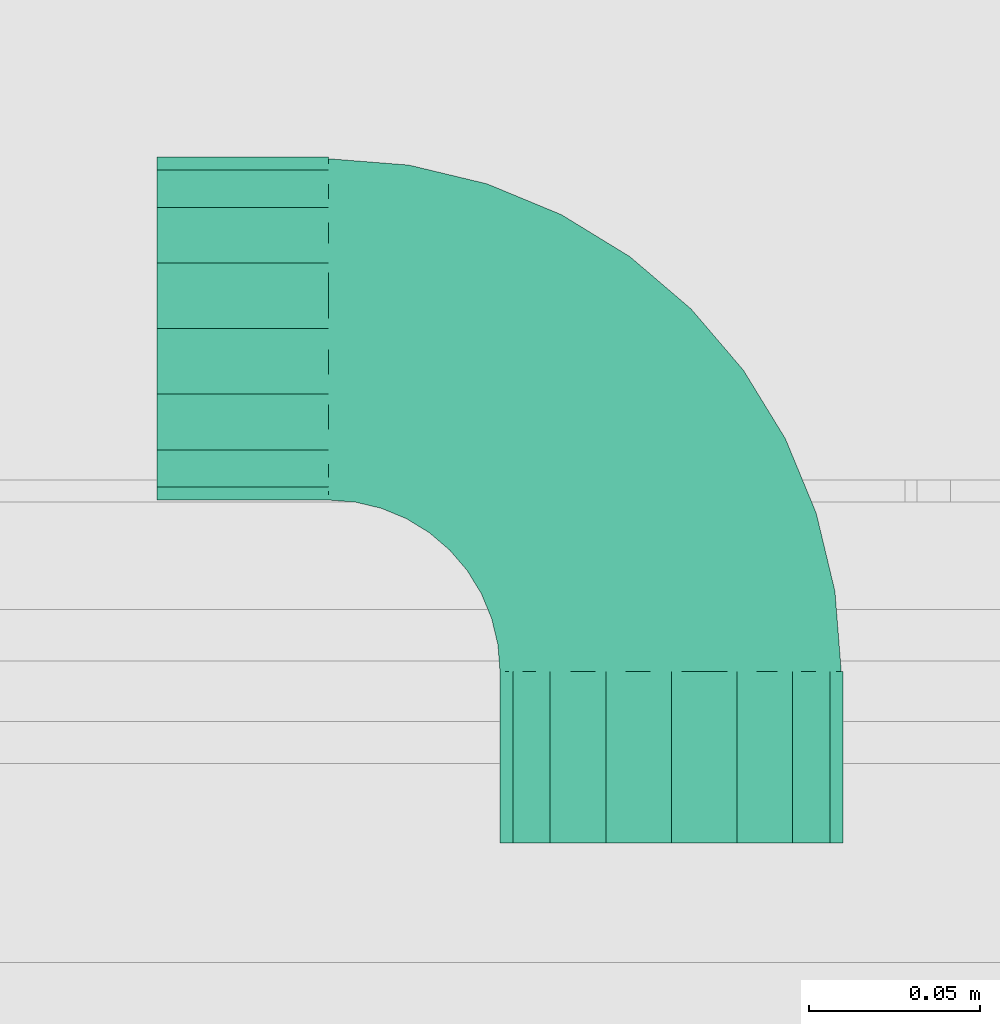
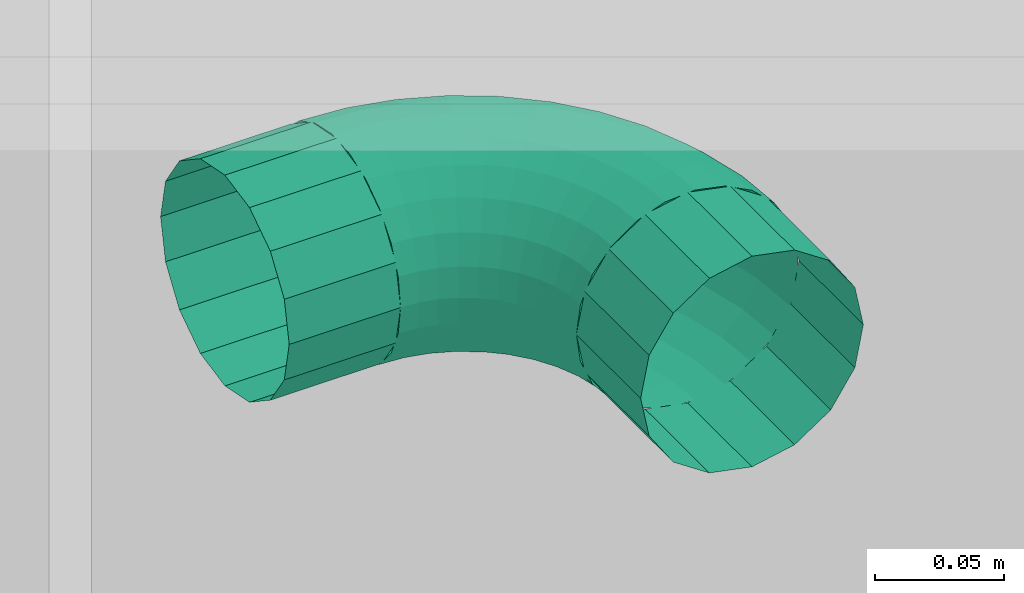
# One storey, part 171 of 183: 1 flow fitting.
"""IFC2X3 building model written with IfcOpenShell, lengths in metres."""

from ifc_helpers import new_model, entity, si_unit, converted_unit, derived_unit, money_unit, direction, frame, origin_with_axes, place, context, subcontext, project, spatial, open_shell, surface_model, material, type_object, element, save


model = new_model("IFC2X3")

# Units and contexts
model_context = context("Model", 3, precision=1e-05, world=origin_with_axes(), true_north=direction((0.0, 1.0)))
body_context = subcontext(model_context, "Body", "Model", "MODEL_VIEW", scale=1.0)
ifc_project = project(units=[si_unit("LENGTHUNIT", "METRE"), si_unit("AREAUNIT", "SQUARE_METRE"), si_unit("VOLUMEUNIT", "CUBIC_METRE"), si_unit("ABSORBEDDOSEUNIT", "GRAY"), si_unit("AMOUNTOFSUBSTANCEUNIT", "MOLE"), si_unit("DOSEEQUIVALENTUNIT", "SIEVERT"), si_unit("ELECTRICCAPACITANCEUNIT", "FARAD"), si_unit("ELECTRICCHARGEUNIT", "COULOMB"), si_unit("ELECTRICCONDUCTANCEUNIT", "SIEMENS"), si_unit("ELECTRICCURRENTUNIT", "AMPERE"), si_unit("ELECTRICRESISTANCEUNIT", "OHM"), si_unit("ELECTRICVOLTAGEUNIT", "VOLT"), si_unit("ENERGYUNIT", "JOULE"), si_unit("FORCEUNIT", "NEWTON"), si_unit("FREQUENCYUNIT", "HERTZ"), si_unit("ILLUMINANCEUNIT", "LUX"), si_unit("INDUCTANCEUNIT", "HENRY"), si_unit("LUMINOUSFLUXUNIT", "LUMEN"), si_unit("LUMINOUSINTENSITYUNIT", "CANDELA"), si_unit("MAGNETICFLUXDENSITYUNIT", "TESLA"), si_unit("MAGNETICFLUXUNIT", "WEBER"), si_unit("MASSUNIT", "GRAM"), converted_unit("PLANEANGLEUNIT", "degree", entity("IfcReal", 0.0174532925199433), si_unit("PLANEANGLEUNIT", "RADIAN"), dimensions=[0, 0, 0, 0, 0, 0, 0]), si_unit("POWERUNIT", "WATT"), si_unit("PRESSUREUNIT", "PASCAL"), si_unit("RADIOACTIVITYUNIT", "BECQUEREL"), si_unit("SOLIDANGLEUNIT", "STERADIAN"), si_unit("THERMODYNAMICTEMPERATUREUNIT", "KELVIN"), si_unit("TIMEUNIT", "SECOND"), derived_unit("ACCELERATIONUNIT", [(si_unit("LENGTHUNIT", "METRE"), 1), (si_unit("TIMEUNIT", "SECOND"), -2)]), derived_unit("ANGULARVELOCITYUNIT", [(converted_unit("PLANEANGLEUNIT", "degree", entity("IfcReal", 0.0174532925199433), si_unit("PLANEANGLEUNIT", "RADIAN"), dimensions=[0, 0, 0, 0, 0, 0, 0]), 1), (si_unit("TIMEUNIT", "SECOND"), -1)]), derived_unit("CURVATUREUNIT", [(converted_unit("PLANEANGLEUNIT", "degree", entity("IfcReal", 0.0174532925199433), si_unit("PLANEANGLEUNIT", "RADIAN"), dimensions=[0, 0, 0, 0, 0, 0, 0]), 1), (si_unit("LENGTHUNIT", "METRE"), -1)]), derived_unit("DYNAMICVISCOSITYUNIT", [(si_unit("PRESSUREUNIT", "PASCAL"), 1), (si_unit("TIMEUNIT", "SECOND"), 1)]), derived_unit("HEATFLUXDENSITYUNIT", [(si_unit("POWERUNIT", "WATT"), 1), (si_unit("LENGTHUNIT", "METRE"), -2)]), derived_unit("HEATINGVALUEUNIT", [(si_unit("ENERGYUNIT", "JOULE"), 1), (si_unit("MASSUNIT", "GRAM"), -1)]), derived_unit("INTEGERCOUNTRATEUNIT", [(si_unit("TIMEUNIT", "SECOND"), -1)]), derived_unit("IONCONCENTRATIONUNIT", [(si_unit("MASSUNIT", "GRAM"), 1), (si_unit("VOLUMEUNIT", "CUBIC_METRE"), -1)]), derived_unit("ISOTHERMALMOISTURECAPACITYUNIT", [(si_unit("VOLUMEUNIT", "CUBIC_METRE"), 1), (si_unit("MASSUNIT", "GRAM"), -1)]), derived_unit("KINEMATICVISCOSITYUNIT", [(si_unit("AREAUNIT", "SQUARE_METRE"), 1), (si_unit("TIMEUNIT", "SECOND"), -1)]), derived_unit("LINEARFORCEUNIT", [(si_unit("FORCEUNIT", "NEWTON"), 1), (si_unit("LENGTHUNIT", "METRE"), -1)]), derived_unit("LINEARMOMENTUNIT", [(si_unit("FORCEUNIT", "NEWTON"), 1), (si_unit("LENGTHUNIT", "METRE"), -1)]), derived_unit("LINEARSTIFFNESSUNIT", [(si_unit("FORCEUNIT", "NEWTON"), 1), (si_unit("LENGTHUNIT", "METRE"), -1)]), derived_unit("LINEARVELOCITYUNIT", [(si_unit("LENGTHUNIT", "METRE"), 1), (si_unit("TIMEUNIT", "SECOND"), -1)]), derived_unit("LUMINOUSINTENSITYDISTRIBUTIONUNIT", [(si_unit("LUMINOUSINTENSITYUNIT", "CANDELA"), 1), (si_unit("LUMINOUSFLUXUNIT", "LUMEN"), -1)]), derived_unit("MASSDENSITYUNIT", [(si_unit("MASSUNIT", "GRAM"), 1), (si_unit("VOLUMEUNIT", "CUBIC_METRE"), -1)]), derived_unit("MASSFLOWRATEUNIT", [(si_unit("MASSUNIT", "GRAM"), 1), (si_unit("TIMEUNIT", "SECOND"), -1)]), derived_unit("MASSPERLENGTHUNIT", [(si_unit("MASSUNIT", "GRAM"), 1), (si_unit("LENGTHUNIT", "METRE"), -1)]), derived_unit("MODULUSOFELASTICITYUNIT", [(si_unit("FORCEUNIT", "NEWTON"), 1), (si_unit("AREAUNIT", "SQUARE_METRE"), -1)]), derived_unit("MODULUSOFLINEARSUBGRADEREACTIONUNIT", [(si_unit("FORCEUNIT", "NEWTON"), 1), (si_unit("LENGTHUNIT", "METRE"), -2)]), derived_unit("MODULUSOFROTATIONALSUBGRADEREACTIONUNIT", [(si_unit("FORCEUNIT", "NEWTON"), 1), (si_unit("LENGTHUNIT", "METRE"), 1)]), derived_unit("MODULUSOFSUBGRADEREACTIONUNIT", [(si_unit("FORCEUNIT", "NEWTON"), 1), (si_unit("VOLUMEUNIT", "CUBIC_METRE"), -1)]), derived_unit("MOISTUREDIFFUSIVITYUNIT", [(si_unit("VOLUMEUNIT", "CUBIC_METRE"), 1), (si_unit("TIMEUNIT", "SECOND"), -1)]), derived_unit("MOLECULARWEIGHTUNIT", [(si_unit("MASSUNIT", "GRAM"), 1), (si_unit("AMOUNTOFSUBSTANCEUNIT", "MOLE"), -1)]), derived_unit("PLANARFORCEUNIT", [(si_unit("FORCEUNIT", "NEWTON"), 1), (si_unit("LENGTHUNIT", "METRE"), -2)]), derived_unit("ROTATIONALFREQUENCYUNIT", [(si_unit("TIMEUNIT", "SECOND"), -1)]), derived_unit("ROTATIONALMASSUNIT", [(si_unit("MASSUNIT", "GRAM"), 1), (si_unit("LENGTHUNIT", "METRE"), 2)]), derived_unit("ROTATIONALSTIFFNESSUNIT", [(si_unit("FORCEUNIT", "NEWTON"), 1), (si_unit("LENGTHUNIT", "METRE"), 1), (converted_unit("PLANEANGLEUNIT", "degree", entity("IfcReal", 0.0174532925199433), si_unit("PLANEANGLEUNIT", "RADIAN"), dimensions=[0, 0, 0, 0, 0, 0, 0]), -1)]), derived_unit("SECTIONAREAINTEGRALUNIT", [(si_unit("LENGTHUNIT", "METRE"), 5)]), derived_unit("SECTIONMODULUSUNIT", [(si_unit("LENGTHUNIT", "METRE"), 3)]), derived_unit("SHEARMODULUSUNIT", [(si_unit("FORCEUNIT", "NEWTON"), 1), (si_unit("AREAUNIT", "SQUARE_METRE"), -1)]), derived_unit("SOUNDPOWERUNIT", [(si_unit("ENERGYUNIT", "JOULE"), 1), (si_unit("TIMEUNIT", "SECOND"), -1)]), derived_unit("SPECIFICHEATCAPACITYUNIT", [(si_unit("FORCEUNIT", "NEWTON"), 1), (si_unit("MASSUNIT", "GRAM"), -1), (si_unit("THERMODYNAMICTEMPERATUREUNIT", "KELVIN"), -1)]), derived_unit("TEMPERATUREGRADIENTUNIT", [(si_unit("THERMODYNAMICTEMPERATUREUNIT", "KELVIN"), 1), (si_unit("LENGTHUNIT", "METRE"), -1)]), derived_unit("THERMALADMITTANCEUNIT", [(si_unit("POWERUNIT", "WATT"), 1), (si_unit("AREAUNIT", "SQUARE_METRE"), -1), (si_unit("THERMODYNAMICTEMPERATUREUNIT", "KELVIN"), -1)]), derived_unit("THERMALCONDUCTANCEUNIT", [(si_unit("POWERUNIT", "WATT"), 1), (si_unit("LENGTHUNIT", "METRE"), -1), (si_unit("THERMODYNAMICTEMPERATUREUNIT", "KELVIN"), -1)]), derived_unit("THERMALEXPANSIONCOEFFICIENTUNIT", [(si_unit("THERMODYNAMICTEMPERATUREUNIT", "KELVIN"), -1)]), derived_unit("THERMALRESISTANCEUNIT", [(si_unit("AREAUNIT", "SQUARE_METRE"), 1), (si_unit("POWERUNIT", "WATT"), -1)]), derived_unit("THERMALTRANSMITTANCEUNIT", [(si_unit("POWERUNIT", "WATT"), 1), (si_unit("AREAUNIT", "SQUARE_METRE"), -1), (si_unit("THERMODYNAMICTEMPERATUREUNIT", "KELVIN"), -1)]), derived_unit("TORQUEUNIT", [(si_unit("FORCEUNIT", "NEWTON"), 1), (si_unit("LENGTHUNIT", "METRE"), 1)]), derived_unit("VAPORPERMEABILITYUNIT", [(si_unit("MASSUNIT", "GRAM"), 1), (si_unit("TIMEUNIT", "SECOND"), -1)]), derived_unit("VOLUMETRICFLOWRATEUNIT", [(si_unit("VOLUMEUNIT", "CUBIC_METRE"), 1), (si_unit("TIMEUNIT", "SECOND"), -1)]), derived_unit("WARPINGCONSTANTUNIT", [(si_unit("LENGTHUNIT", "METRE"), 6)]), derived_unit("WARPINGMOMENTUNIT", [(si_unit("FORCEUNIT", "NEWTON"), 1), (si_unit("LENGTHUNIT", "METRE"), 2)]), money_unit("GBP")], contexts=[model_context])

# Site, building, storey, space
site_placement = place(None, origin_with_axes())
site = spatial("IfcSite", under=ifc_project, at=site_placement, Name="Site", CompositionType="ELEMENT")
building_placement = place(site_placement, origin_with_axes())
building = spatial("IfcBuilding", under=site, at=building_placement, Name="Building01", CompositionType="ELEMENT")
storey_placement = place(building_placement, frame((0.0, 0.0, 5.15), z_axis=(0.0, 0.0, 1.0), x_axis=(1.0, 0.0, 0.0)))
storey = spatial("IfcBuildingStorey", under=building, at=storey_placement, Name="1F", CompositionType="ELEMENT", Elevation=5.15)
space_placement = place(storey_placement, frame((1.009939, 13.890379, 9.81), z_axis=(0.0, 0.0, 1.0), x_axis=(0.0, -1.0, 0.0)))
space = spatial("IfcSpace", under=storey, at=space_placement, Name="26", CompositionType="ELEMENT", InteriorOrExteriorSpace="NOTDEFINED")

# Flow fitting
ifc_material = material(Name="M_BSUK_Ventilation")
duct_fitting_type = type_object("IfcDuctFittingType", Name="M-Roundelbow-DefaultRound", PredefinedType="BEND")
placement = place(building_placement, origin_with_axes())
flow_fitting_placement = place(placement, frame((3.07, 8.432559, 17.28), z_axis=(1.0, 0.0, 0.0), x_axis=(0.0, 1.0, 0.0)))
element("IfcFlowFitting", 1, at=flow_fitting_placement, inside=space, type_object=duct_fitting_type, material=ifc_material, Name="M-Roundelbow-DefaultRound", ObjectType="M-Roundelbow-DefaultRound", context=body_context, shape_type="SurfaceModel", body=[
    surface_model("IfcShellBasedSurfaceModel", [(0.008112, -0.01349, -0.048784), (0.0, -0.01349, -0.048146), (0.0, 0.0, -0.05), (0.007822, 0.0, -0.050616), (0.016024, -0.01349, -0.050684), (0.015451, 0.0, -0.052447), (0.023541, -0.01349, -0.053798), (0.0227, 0.0, -0.05545), (0.030479, -0.01349, -0.058049), (0.029389, 0.0, -0.059549), (0.036666, -0.01349, -0.063334), (0.035355, 0.0, -0.064645), (0.041951, -0.01349, -0.069521), (0.040451, 0.0, -0.070611), (0.046202, -0.01349, -0.076459), (0.04455, 0.0, -0.0773), (0.049316, -0.01349, -0.083976), (0.047553, 0.0, -0.084549), (0.051216, -0.01349, -0.091888), (0.049384, 0.0, -0.092178), (0.051854, -0.01349, -0.1), (0.05, 0.0, -0.1), (0.00896, -0.025979, -0.043426), (0.0, -0.025979, -0.042721), (0.0177, -0.025979, -0.045524), (0.026004, -0.025979, -0.048964), (0.033668, -0.025979, -0.05366), (0.040502, -0.025979, -0.059498), (0.04634, -0.025979, -0.066332), (0.051036, -0.025979, -0.073996), (0.054476, -0.025979, -0.0823), (0.056574, -0.025979, -0.09104), (0.057279, -0.025979, -0.1), (0.010305, -0.036542, -0.034939), (0.0, -0.036542, -0.034128), (0.020356, -0.036542, -0.037352), (0.029905, -0.036542, -0.041307), (0.038719, -0.036542, -0.046708), (0.046579, -0.036542, -0.053421), (0.053292, -0.036542, -0.061281), (0.058693, -0.036542, -0.070095), (0.062648, -0.036542, -0.079644), (0.065061, -0.036542, -0.089695), (0.065872, -0.036542, -0.1), (0.012045, -0.044394, -0.023951), (0.0, -0.044394, -0.023003), (0.023793, -0.044394, -0.026772), (0.034956, -0.044394, -0.031395), (0.045258, -0.044394, -0.037708), (0.054445, -0.044394, -0.045555), (0.062292, -0.044394, -0.054742), (0.068605, -0.044394, -0.065044), (0.073228, -0.044394, -0.076207), (0.076049, -0.044394, -0.087955), (0.076997, -0.044394, -0.1), (0.014052, -0.048954, -0.011279), (0.0, -0.048954, -0.010173), (0.027758, -0.048954, -0.014569), (0.040781, -0.048954, -0.019963), (0.052799, -0.048954, -0.027328), (0.063517, -0.048954, -0.036483), (0.072672, -0.048954, -0.047201), (0.080037, -0.048954, -0.059219), (0.085431, -0.048954, -0.072242), (0.088721, -0.048954, -0.085948), (0.089827, -0.048954, -0.1), (0.016177, -0.049883, 0.002139), (0.0, -0.049883, 0.003412), (0.031956, -0.049883, -0.001649), (0.046948, -0.049883, -0.007859), (0.060784, -0.049883, -0.016338), (0.073123, -0.049883, -0.026877), (0.083662, -0.049883, -0.039216), (0.092141, -0.049883, -0.053052), (0.098351, -0.049883, -0.068044), (0.102139, -0.049883, -0.083823), (0.103412, -0.049883, -0.1), (0.018263, -0.047113, 0.015307), (0.0, -0.047113, 0.016744), (0.036076, -0.047113, 0.01103), (0.053001, -0.047113, 0.00402), (0.06862, -0.047113, -0.005552), (0.08255, -0.047113, -0.01745), (0.094448, -0.047113, -0.03138), (0.10402, -0.047113, -0.046999), (0.11103, -0.047113, -0.063924), (0.115307, -0.047113, -0.081737), (0.116744, -0.047113, -0.1), (0.020154, -0.040848, 0.027248), (0.0, -0.040848, 0.028834), (0.039812, -0.040848, 0.022528), (0.058489, -0.040848, 0.014792), (0.075727, -0.040848, 0.004229), (0.091099, -0.040848, -0.008901), (0.104229, -0.040848, -0.024273), (0.114792, -0.040848, -0.041511), (0.122528, -0.040848, -0.060188), (0.127248, -0.040848, -0.079846), (0.128834, -0.040848, -0.1), (0.021711, -0.031554, 0.037077), (0.0, -0.031554, 0.038786), (0.042887, -0.031554, 0.031993), (0.063007, -0.031554, 0.023659), (0.081576, -0.031554, 0.01228), (0.098136, -0.031554, -0.001864), (0.11228, -0.031554, -0.018424), (0.123659, -0.031554, -0.036993), (0.131993, -0.031554, -0.057113), (0.137077, -0.031554, -0.078289), (0.138786, -0.031554, -0.1), (0.022818, -0.01992, 0.044065), (0.0, -0.01992, 0.045861), (0.045073, -0.01992, 0.038722), (0.066219, -0.01992, 0.029963), (0.085735, -0.01992, 0.018004), (0.103139, -0.01992, 0.003139), (0.118004, -0.01992, -0.014265), (0.129963, -0.01992, -0.033781), (0.138722, -0.01992, -0.054927), (0.144065, -0.01992, -0.077182), (0.145861, -0.01992, -0.1), (0.023392, -0.006808, 0.047693), (0.0, -0.006808, 0.049534), (0.046209, -0.006808, 0.042216), (0.067887, -0.006808, 0.033236), (0.087894, -0.006808, 0.020976), (0.105737, -0.006808, 0.005737), (0.120976, -0.006808, -0.012106), (0.133236, -0.006808, -0.032113), (0.142216, -0.006808, -0.053791), (0.147693, -0.006808, -0.076608), (0.149534, -0.006808, -0.1), (0.023392, 0.006808, 0.047693), (0.0, 0.006808, 0.049534), (0.046209, 0.006808, 0.042216), (0.067887, 0.006808, 0.033236), (0.087894, 0.006808, 0.020976), (0.105737, 0.006808, 0.005737), (0.120976, 0.006808, -0.012106), (0.133236, 0.006808, -0.032113), (0.142216, 0.006808, -0.053791), (0.147693, 0.006808, -0.076608), (0.149534, 0.006808, -0.1), (0.022818, 0.01992, 0.044065), (0.0, 0.01992, 0.045861), (0.045073, 0.01992, 0.038722), (0.066219, 0.01992, 0.029963), (0.085735, 0.01992, 0.018004), (0.103139, 0.01992, 0.003139), (0.118004, 0.01992, -0.014265), (0.129963, 0.01992, -0.033781), (0.138722, 0.01992, -0.054927), (0.144065, 0.01992, -0.077182), (0.145861, 0.01992, -0.1), (0.021711, 0.031554, 0.037077), (0.0, 0.031554, 0.038786), (0.042887, 0.031554, 0.031993), (0.063007, 0.031554, 0.023659), (0.081576, 0.031554, 0.01228), (0.098136, 0.031554, -0.001864), (0.11228, 0.031554, -0.018424), (0.123659, 0.031554, -0.036993), (0.131993, 0.031554, -0.057113), (0.137077, 0.031554, -0.078289), (0.138786, 0.031554, -0.1), (0.020154, 0.040848, 0.027248), (0.0, 0.040848, 0.028834), (0.039812, 0.040848, 0.022528), (0.058489, 0.040848, 0.014792), (0.075727, 0.040848, 0.004229), (0.091099, 0.040848, -0.008901), (0.104229, 0.040848, -0.024273), (0.114792, 0.040848, -0.041511), (0.122528, 0.040848, -0.060188), (0.127248, 0.040848, -0.079846), (0.128834, 0.040848, -0.1), (0.018263, 0.047113, 0.015307), (0.0, 0.047113, 0.016744), (0.036076, 0.047113, 0.01103), (0.053001, 0.047113, 0.00402), (0.06862, 0.047113, -0.005552), (0.08255, 0.047113, -0.01745), (0.094448, 0.047113, -0.03138), (0.10402, 0.047113, -0.046999), (0.11103, 0.047113, -0.063924), (0.115307, 0.047113, -0.081737), (0.116744, 0.047113, -0.1), (0.016177, 0.049883, 0.002139), (0.0, 0.049883, 0.003412), (0.031956, 0.049883, -0.001649), (0.046948, 0.049883, -0.007859), (0.060784, 0.049883, -0.016338), (0.073123, 0.049883, -0.026877), (0.083662, 0.049883, -0.039216), (0.092141, 0.049883, -0.053052), (0.098351, 0.049883, -0.068044), (0.102139, 0.049883, -0.083823), (0.103412, 0.049883, -0.1), (0.014052, 0.048954, -0.011279), (0.0, 0.048954, -0.010173), (0.027758, 0.048954, -0.014569), (0.040781, 0.048954, -0.019963), (0.052799, 0.048954, -0.027328), (0.063517, 0.048954, -0.036483), (0.072672, 0.048954, -0.047201), (0.080037, 0.048954, -0.059219), (0.085431, 0.048954, -0.072242), (0.088721, 0.048954, -0.085948), (0.089827, 0.048954, -0.1), (0.012045, 0.044394, -0.023951), (0.0, 0.044394, -0.023003), (0.023793, 0.044394, -0.026772), (0.034956, 0.044394, -0.031395), (0.045258, 0.044394, -0.037708), (0.054445, 0.044394, -0.045555), (0.062292, 0.044394, -0.054742), (0.068605, 0.044394, -0.065044), (0.073228, 0.044394, -0.076207), (0.076049, 0.044394, -0.087955), (0.076997, 0.044394, -0.1), (0.010305, 0.036542, -0.034939), (0.0, 0.036542, -0.034128), (0.020356, 0.036542, -0.037352), (0.029905, 0.036542, -0.041307), (0.038719, 0.036542, -0.046708), (0.046579, 0.036542, -0.053421), (0.053292, 0.036542, -0.061281), (0.058693, 0.036542, -0.070095), (0.062648, 0.036542, -0.079644), (0.065061, 0.036542, -0.089695), (0.065872, 0.036542, -0.1), (0.00896, 0.025979, -0.043426), (0.0, 0.025979, -0.042721), (0.0177, 0.025979, -0.045524), (0.026004, 0.025979, -0.048964), (0.033668, 0.025979, -0.05366), (0.040502, 0.025979, -0.059498), (0.04634, 0.025979, -0.066332), (0.051036, 0.025979, -0.073996), (0.054476, 0.025979, -0.0823), (0.056574, 0.025979, -0.09104), (0.057279, 0.025979, -0.1), (0.008112, 0.01349, -0.048784), (0.0, 0.01349, -0.048146), (0.016024, 0.01349, -0.050684), (0.023541, 0.01349, -0.053798), (0.030479, 0.01349, -0.058049), (0.036666, 0.01349, -0.063334), (0.041951, 0.01349, -0.069521), (0.046202, 0.01349, -0.076459), (0.049316, 0.01349, -0.083976), (0.051216, 0.01349, -0.091888), (0.051854, 0.01349, -0.1), (-0.05, 0.0, -0.05), (0.0, -0.019134, -0.046194), (-0.05, -0.019134, -0.046194), (0.0, -0.035355, -0.035355), (-0.05, -0.035355, -0.035355), (0.0, -0.046194, -0.019134), (-0.05, -0.046194, -0.019134), (0.0, -0.05, 0.0), (-0.05, -0.05, 0.0), (0.0, -0.046194, 0.019134), (-0.05, -0.046194, 0.019134), (0.0, -0.035355, 0.035355), (-0.05, -0.035355, 0.035355), (0.0, -0.019134, 0.046194), (-0.05, -0.019134, 0.046194), (0.0, 0.0, 0.05), (-0.05, 0.0, 0.05), (0.0, 0.019134, 0.046194), (-0.05, 0.019134, 0.046194), (0.0, 0.035355, 0.035355), (-0.05, 0.035355, 0.035355), (0.0, 0.046194, 0.019134), (-0.05, 0.046194, 0.019134), (0.0, 0.05, 0.0), (-0.05, 0.05, 0.0), (0.0, 0.046194, -0.019134), (-0.05, 0.046194, -0.019134), (0.0, 0.035355, -0.035355), (-0.05, 0.035355, -0.035355), (0.0, 0.019134, -0.046194), (-0.05, 0.019134, -0.046194), (0.05, 0.0, -0.15), (0.053806, 0.019134, -0.1), (0.053806, 0.019134, -0.15), (0.064645, 0.035355, -0.1), (0.064645, 0.035355, -0.15), (0.080866, 0.046194, -0.1), (0.080866, 0.046194, -0.15), (0.1, 0.05, -0.1), (0.1, 0.05, -0.15), (0.119134, 0.046194, -0.1), (0.119134, 0.046194, -0.15), (0.135355, 0.035355, -0.1), (0.135355, 0.035355, -0.15), (0.146194, 0.019134, -0.1), (0.146194, 0.019134, -0.15), (0.15, 0.0, -0.1), (0.15, 0.0, -0.15), (0.146194, -0.019134, -0.1), (0.146194, -0.019134, -0.15), (0.135355, -0.035355, -0.1), (0.135355, -0.035355, -0.15), (0.119134, -0.046194, -0.1), (0.119134, -0.046194, -0.15), (0.1, -0.05, -0.1), (0.1, -0.05, -0.15), (0.080866, -0.046194, -0.1), (0.080866, -0.046194, -0.15), (0.064645, -0.035355, -0.1), (0.064645, -0.035355, -0.15), (0.053806, -0.019134, -0.1), (0.053806, -0.019134, -0.15)], [open_shell([[[0, 1, 2, 3]], [[4, 0, 3, 5]], [[6, 4, 5, 7]], [[8, 6, 7, 9]], [[10, 8, 9, 11]], [[12, 10, 11, 13]], [[14, 12, 13, 15]], [[16, 14, 15, 17]], [[18, 16, 17, 19]], [[20, 18, 19, 21]], [[22, 23, 1, 0]], [[24, 22, 0, 4]], [[25, 24, 4, 6]], [[26, 25, 6, 8]], [[27, 26, 8, 10]], [[28, 27, 10, 12]], [[29, 28, 12, 14]], [[30, 29, 14, 16]], [[31, 30, 16, 18]], [[32, 31, 18, 20]], [[33, 34, 23, 22]], [[35, 33, 22, 24]], [[36, 35, 24, 25]], [[37, 36, 25, 26]], [[38, 37, 26, 27]], [[39, 38, 27, 28]], [[40, 39, 28, 29]], [[41, 40, 29, 30]], [[42, 41, 30, 31]], [[43, 42, 31, 32]], [[44, 45, 34, 33]], [[46, 44, 33, 35]], [[47, 46, 35, 36]], [[48, 47, 36, 37]], [[49, 48, 37, 38]], [[50, 49, 38, 39]], [[51, 50, 39, 40]], [[52, 51, 40, 41]], [[53, 52, 41, 42]], [[54, 53, 42, 43]], [[55, 56, 45, 44]], [[57, 55, 44, 46]], [[58, 57, 46, 47]], [[59, 58, 47, 48]], [[60, 59, 48, 49]], [[61, 60, 49, 50]], [[62, 61, 50, 51]], [[63, 62, 51, 52]], [[64, 63, 52, 53]], [[65, 64, 53, 54]], [[66, 67, 56, 55]], [[68, 66, 55, 57]], [[69, 68, 57, 58]], [[70, 69, 58, 59]], [[71, 70, 59, 60]], [[72, 71, 60, 61]], [[73, 72, 61, 62]], [[74, 73, 62, 63]], [[75, 74, 63, 64]], [[76, 75, 64, 65]], [[77, 78, 67, 66]], [[79, 77, 66, 68]], [[80, 79, 68, 69]], [[81, 80, 69, 70]], [[82, 81, 70, 71]], [[83, 82, 71, 72]], [[84, 83, 72, 73]], [[85, 84, 73, 74]], [[86, 85, 74, 75]], [[87, 86, 75, 76]], [[88, 89, 78, 77]], [[90, 88, 77, 79]], [[91, 90, 79, 80]], [[92, 91, 80, 81]], [[93, 92, 81, 82]], [[94, 93, 82, 83]], [[95, 94, 83, 84]], [[96, 95, 84, 85]], [[97, 96, 85, 86]], [[98, 97, 86, 87]], [[99, 100, 89, 88]], [[101, 99, 88, 90]], [[102, 101, 90, 91]], [[103, 102, 91, 92]], [[104, 103, 92, 93]], [[105, 104, 93, 94]], [[106, 105, 94, 95]], [[107, 106, 95, 96]], [[108, 107, 96, 97]], [[109, 108, 97, 98]], [[110, 111, 100, 99]], [[112, 110, 99, 101]], [[113, 112, 101, 102]], [[114, 113, 102, 103]], [[115, 114, 103, 104]], [[116, 115, 104, 105]], [[117, 116, 105, 106]], [[118, 117, 106, 107]], [[119, 118, 107, 108]], [[120, 119, 108, 109]], [[121, 122, 111, 110]], [[123, 121, 110, 112]], [[124, 123, 112, 113]], [[125, 124, 113, 114]], [[126, 125, 114, 115]], [[127, 126, 115, 116]], [[128, 127, 116, 117]], [[129, 128, 117, 118]], [[130, 129, 118, 119]], [[131, 130, 119, 120]], [[132, 133, 122, 121]], [[134, 132, 121, 123]], [[135, 134, 123, 124]], [[136, 135, 124, 125]], [[137, 136, 125, 126]], [[138, 137, 126, 127]], [[139, 138, 127, 128]], [[140, 139, 128, 129]], [[141, 140, 129, 130]], [[142, 141, 130, 131]], [[143, 144, 133, 132]], [[145, 143, 132, 134]], [[146, 145, 134, 135]], [[147, 146, 135, 136]], [[148, 147, 136, 137]], [[149, 148, 137, 138]], [[150, 149, 138, 139]], [[151, 150, 139, 140]], [[152, 151, 140, 141]], [[153, 152, 141, 142]], [[154, 155, 144, 143]], [[156, 154, 143, 145]], [[157, 156, 145, 146]], [[158, 157, 146, 147]], [[159, 158, 147, 148]], [[160, 159, 148, 149]], [[161, 160, 149, 150]], [[162, 161, 150, 151]], [[163, 162, 151, 152]], [[164, 163, 152, 153]], [[165, 166, 155, 154]], [[167, 165, 154, 156]], [[168, 167, 156, 157]], [[169, 168, 157, 158]], [[170, 169, 158, 159]], [[171, 170, 159, 160]], [[172, 171, 160, 161]], [[173, 172, 161, 162]], [[174, 173, 162, 163]], [[175, 174, 163, 164]], [[176, 177, 166, 165]], [[178, 176, 165, 167]], [[179, 178, 167, 168]], [[180, 179, 168, 169]], [[181, 180, 169, 170]], [[182, 181, 170, 171]], [[183, 182, 171, 172]], [[184, 183, 172, 173]], [[185, 184, 173, 174]], [[186, 185, 174, 175]], [[187, 188, 177, 176]], [[189, 187, 176, 178]], [[190, 189, 178, 179]], [[191, 190, 179, 180]], [[192, 191, 180, 181]], [[193, 192, 181, 182]], [[194, 193, 182, 183]], [[195, 194, 183, 184]], [[196, 195, 184, 185]], [[197, 196, 185, 186]], [[198, 199, 188, 187]], [[200, 198, 187, 189]], [[201, 200, 189, 190]], [[202, 201, 190, 191]], [[203, 202, 191, 192]], [[204, 203, 192, 193]], [[205, 204, 193, 194]], [[206, 205, 194, 195]], [[207, 206, 195, 196]], [[208, 207, 196, 197]], [[209, 210, 199, 198]], [[211, 209, 198, 200]], [[212, 211, 200, 201]], [[213, 212, 201, 202]], [[214, 213, 202, 203]], [[215, 214, 203, 204]], [[216, 215, 204, 205]], [[217, 216, 205, 206]], [[218, 217, 206, 207]], [[219, 218, 207, 208]], [[220, 221, 210, 209]], [[222, 220, 209, 211]], [[223, 222, 211, 212]], [[224, 223, 212, 213]], [[225, 224, 213, 214]], [[226, 225, 214, 215]], [[227, 226, 215, 216]], [[228, 227, 216, 217]], [[229, 228, 217, 218]], [[230, 229, 218, 219]], [[231, 232, 221, 220]], [[233, 231, 220, 222]], [[234, 233, 222, 223]], [[235, 234, 223, 224]], [[236, 235, 224, 225]], [[237, 236, 225, 226]], [[238, 237, 226, 227]], [[239, 238, 227, 228]], [[240, 239, 228, 229]], [[241, 240, 229, 230]], [[242, 243, 232, 231]], [[244, 242, 231, 233]], [[245, 244, 233, 234]], [[246, 245, 234, 235]], [[247, 246, 235, 236]], [[248, 247, 236, 237]], [[249, 248, 237, 238]], [[250, 249, 238, 239]], [[251, 250, 239, 240]], [[252, 251, 240, 241]], [[3, 2, 243, 242]], [[5, 3, 242, 244]], [[7, 5, 244, 245]], [[9, 7, 245, 246]], [[11, 9, 246, 247]], [[13, 11, 247, 248]], [[15, 13, 248, 249]], [[17, 15, 249, 250]], [[19, 17, 250, 251]], [[21, 19, 251, 252]], [[253, 2, 254, 255]], [[255, 254, 256, 257]], [[257, 256, 258, 259]], [[259, 258, 260, 261]], [[261, 260, 262, 263]], [[263, 262, 264, 265]], [[265, 264, 266, 267]], [[267, 266, 268, 269]], [[269, 268, 270, 271]], [[271, 270, 272, 273]], [[273, 272, 274, 275]], [[275, 274, 276, 277]], [[277, 276, 278, 279]], [[279, 278, 280, 281]], [[281, 280, 282, 283]], [[283, 282, 2, 253]], [[284, 21, 285, 286]], [[286, 285, 287, 288]], [[288, 287, 289, 290]], [[290, 289, 291, 292]], [[292, 291, 293, 294]], [[294, 293, 295, 296]], [[296, 295, 297, 298]], [[298, 297, 299, 300]], [[300, 299, 301, 302]], [[302, 301, 303, 304]], [[304, 303, 305, 306]], [[306, 305, 307, 308]], [[308, 307, 309, 310]], [[310, 309, 311, 312]], [[312, 311, 313, 314]], [[314, 313, 21, 284]]])]),
])

save(model, "model.ifc")
